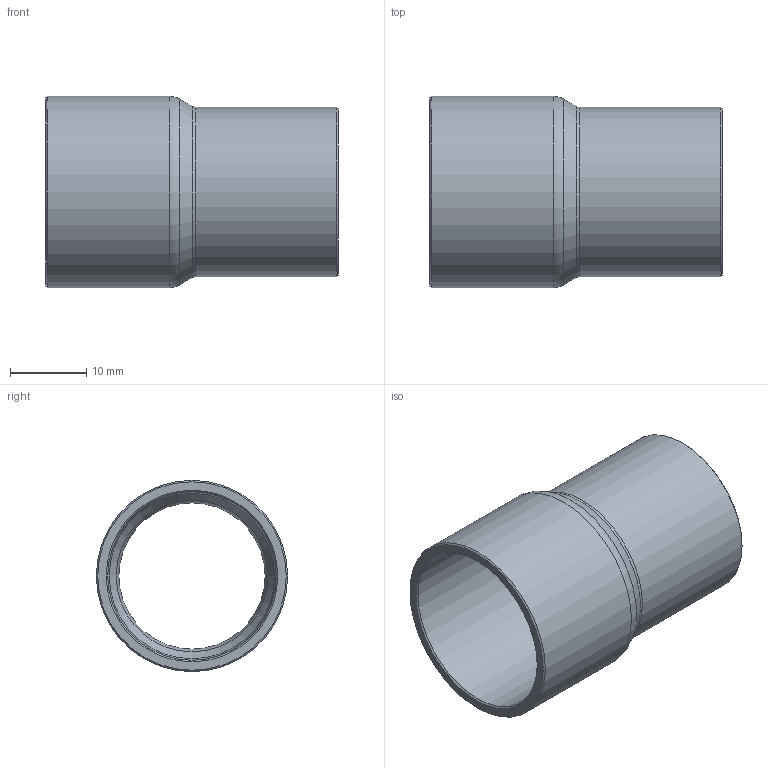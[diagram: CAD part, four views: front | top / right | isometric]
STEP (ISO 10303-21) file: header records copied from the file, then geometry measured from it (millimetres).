
FILE_DESCRIPTION((''),'2;1');
FILE_NAME('G:\SANHA-Ternat\Technik\Management\Bouwmaten + markeringen\z-maattekeningen 3D\29000s\29243IM7822_3d.stp','2017-08-07T11:44:47',('vdvijverd'),(''),'Autodesk Inventor 2009','Autodesk Inventor 2009','');
FILE_SCHEMA(('AUTOMOTIVE_DESIGN { 1 0 10303 214 1 1 1 1 }'));
Length unit declared in the file: millimetre
Products named in the file (1): 29243IM7822_3d
Bounding box: 38.4 x 25.15 x 25.15 mm (x, y, z)
Volume: 4029.5 mm3; surface area: 5555.6 mm2
Topology: 1 solids, 1 shells, 16 faces, 30 edges, 16 vertices
Faces by surface type: cone 6, cylinder 4, plane 2, torus 2, bspline 2
Full cylindrical faces by diameter (mm): 19.23 x1, 22.15 x1, 22.23 x1, 25.15 x1
Entity records: 434 total; most frequent: CARTESIAN_POINT 137, DIRECTION 62, ORIENTED_EDGE 32, EDGE_LOOP 32, AXIS2_PLACEMENT_3D 31, VERTEX_POINT 16, CIRCLE 16, EDGE_CURVE 16
